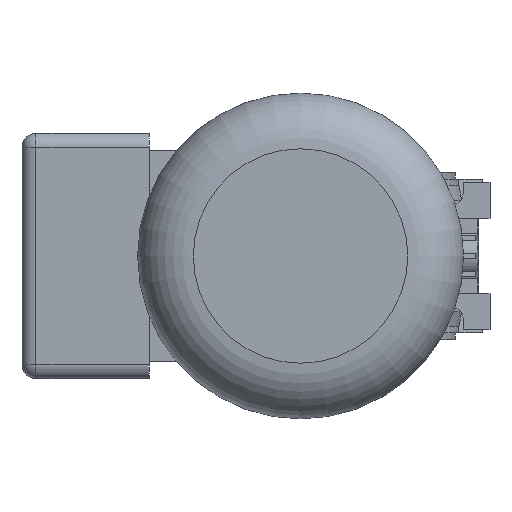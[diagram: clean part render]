
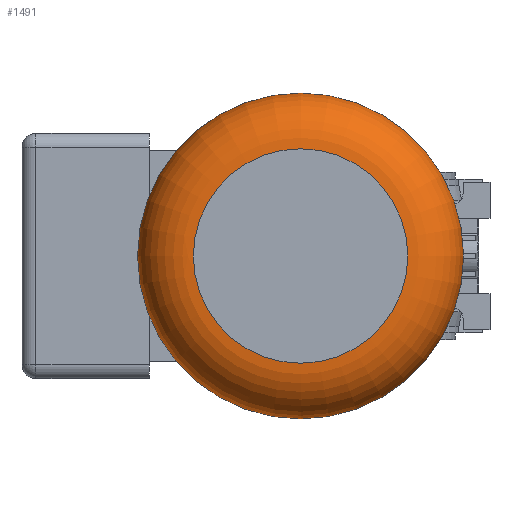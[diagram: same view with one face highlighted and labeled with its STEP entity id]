
A CAD part, left-side view. The second image highlights one B-rep face of the part: STEP entity #1491.
In plain terms, the highlighted toroidal (fillet/blend) face has major radius 38.5 mm and minor radius 20 mm.
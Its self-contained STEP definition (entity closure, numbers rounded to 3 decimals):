
#1491 = ADVANCED_FACE( '', ( #3560, #3561 ), #3562, .T. );
#3560 = FACE_OUTER_BOUND( '', #6304, .T. );
#3561 = FACE_OUTER_BOUND( '', #6305, .T. );
#3562 = TOROIDAL_SURFACE( '', #6306, 38.5, 20. );
#6304 = EDGE_LOOP( '', ( #11074 ) );
#6305 = EDGE_LOOP( '', ( #11075 ) );
#6306 = AXIS2_PLACEMENT_3D( '', #11076, #11077, #11078 );
#11074 = ORIENTED_EDGE( '', *, *, #17770, .F. );
#11075 = ORIENTED_EDGE( '', *, *, #17414, .F. );
#11076 = CARTESIAN_POINT( '', ( -213.5, 28., 0. ) );
#11077 = DIRECTION( '', ( -1., 0., 0. ) );
#11078 = DIRECTION( '', ( 0., 1., 0. ) );
#17414 = EDGE_CURVE( '', #21434, #21434, #21435, .F. );
#17770 = EDGE_CURVE( '', #21984, #21984, #21985, .T. );
#21434 = VERTEX_POINT( '', #27161 );
#21435 = CIRCLE( '', #27162, 58.5 );
#21984 = VERTEX_POINT( '', #28025 );
#21985 = CIRCLE( '', #28026, 38.5 );
#27161 = CARTESIAN_POINT( '', ( -213.5, 86.5, 0. ) );
#27162 = AXIS2_PLACEMENT_3D( '', #32171, #32172, #32173 );
#28025 = CARTESIAN_POINT( '', ( -233.5, 66.5, 0. ) );
#28026 = AXIS2_PLACEMENT_3D( '', #32573, #32574, #32575 );
#32171 = CARTESIAN_POINT( '', ( -213.5, 28., 0. ) );
#32172 = DIRECTION( '', ( -1., 0., 0. ) );
#32173 = DIRECTION( '', ( 0., 1., 0. ) );
#32573 = CARTESIAN_POINT( '', ( -233.5, 28., 0. ) );
#32574 = DIRECTION( '', ( -1., 0., 0. ) );
#32575 = DIRECTION( '', ( 0., 1., 0. ) );
